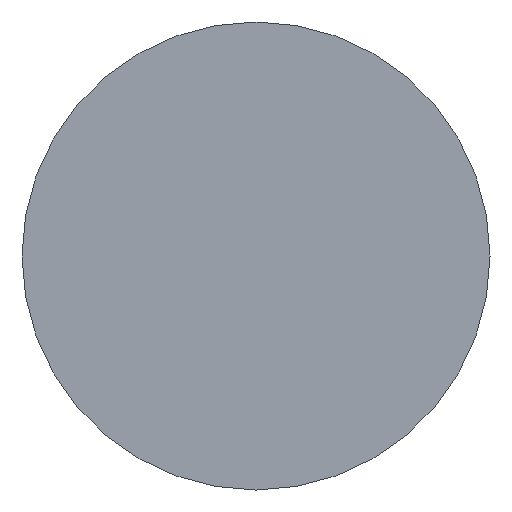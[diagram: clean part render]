
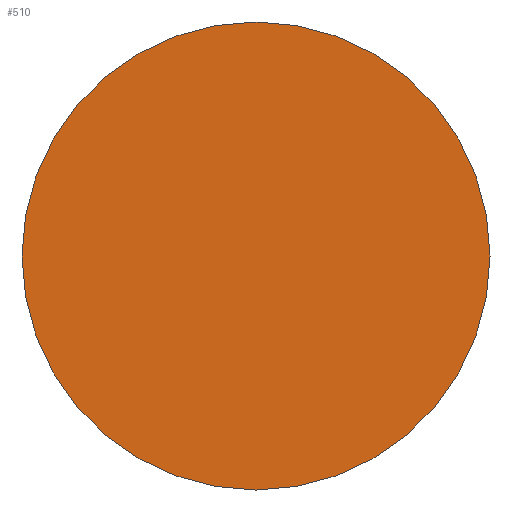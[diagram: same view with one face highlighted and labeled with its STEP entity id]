
A CAD part, left-side view. The second image highlights one B-rep face of the part: STEP entity #510.
In plain terms, the highlighted planar face has unit normal (-1, 0, 0).
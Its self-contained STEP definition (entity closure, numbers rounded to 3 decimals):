
#150 = AXIS2_PLACEMENT_3D ( 'NONE', #381, #430, #433 ) ;
#165 = EDGE_CURVE ( 'NONE', #333, #531, #309, .T. ) ;
#189 = DIRECTION ( 'NONE',  ( 0., 0., -1. ) ) ;
#198 = CIRCLE ( 'NONE', #150, 9.5 ) ;
#297 = ORIENTED_EDGE ( 'NONE', *, *, #165, .T. ) ;
#309 = CIRCLE ( 'NONE', #440, 9.5 ) ;
#312 = CARTESIAN_POINT ( 'NONE',  ( 0., 0., -9.5 ) ) ;
#333 = VERTEX_POINT ( 'NONE', #312 ) ;
#358 = EDGE_LOOP ( 'NONE', ( #686, #297 ) ) ;
#381 = CARTESIAN_POINT ( 'NONE',  ( 0., 0., 0. ) ) ;
#403 = CARTESIAN_POINT ( 'NONE',  ( 0., 0., 0. ) ) ;
#430 = DIRECTION ( 'NONE',  ( -1., 0., 0. ) ) ;
#433 = DIRECTION ( 'NONE',  ( 0., 0., 1. ) ) ;
#439 = PLANE ( 'NONE',  #563 ) ;
#440 = AXIS2_PLACEMENT_3D ( 'NONE', #547, #577, #541 ) ;
#464 = DIRECTION ( 'NONE',  ( 1., 0., 0. ) ) ;
#480 = CARTESIAN_POINT ( 'NONE',  ( 0., 0., 9.5 ) ) ;
#510 = ADVANCED_FACE ( 'NONE', ( #522 ), #439, .F. ) ;
#522 = FACE_OUTER_BOUND ( 'NONE', #358, .T. ) ;
#531 = VERTEX_POINT ( 'NONE', #480 ) ;
#541 = DIRECTION ( 'NONE',  ( 0., 0., 1. ) ) ;
#547 = CARTESIAN_POINT ( 'NONE',  ( 0., 0., 0. ) ) ;
#563 = AXIS2_PLACEMENT_3D ( 'NONE', #403, #464, #189 ) ;
#569 = EDGE_CURVE ( 'NONE', #531, #333, #198, .T. ) ;
#577 = DIRECTION ( 'NONE',  ( -1., 0., 0. ) ) ;
#686 = ORIENTED_EDGE ( 'NONE', *, *, #569, .T. ) ;
